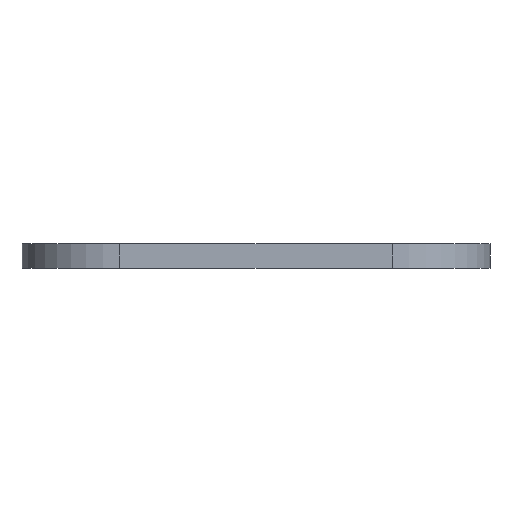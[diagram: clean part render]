
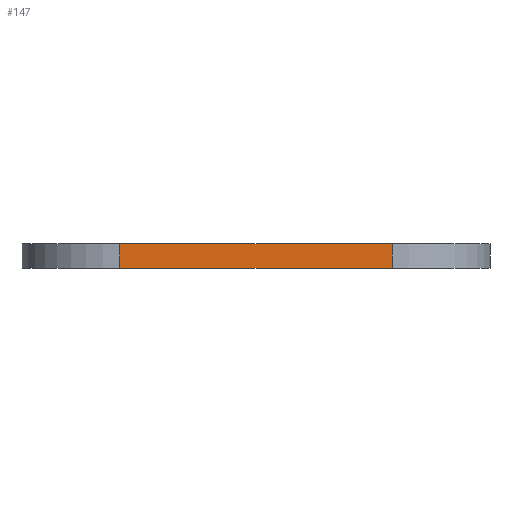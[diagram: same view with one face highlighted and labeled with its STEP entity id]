
A CAD part, front view. The second image highlights one B-rep face of the part: STEP entity #147.
In plain terms, the highlighted planar face has unit normal (0, -1, 0).
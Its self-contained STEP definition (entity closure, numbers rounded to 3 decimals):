
#21 = EDGE_CURVE('',#22,#24,#26,.T.);
#22 = VERTEX_POINT('',#23);
#23 = CARTESIAN_POINT('',(15.2,1.2,21.2));
#24 = VERTEX_POINT('',#25);
#25 = CARTESIAN_POINT('',(15.2,1.2,19.8));
#26 = SURFACE_CURVE('',#27,(#31,#43),.PCURVE_S1.);
#27 = LINE('',#28,#29);
#28 = CARTESIAN_POINT('',(15.2,1.2,21.2));
#29 = VECTOR('',#30,1.);
#30 = DIRECTION('',(0.,0.,-1.));
#31 = PCURVE('',#32,#37);
#32 = CYLINDRICAL_SURFACE('',#33,5.6);
#33 = AXIS2_PLACEMENT_3D('',#34,#35,#36);
#34 = CARTESIAN_POINT('',(15.2,6.8,21.2));
#35 = DIRECTION('',(0.,-0.,1.));
#36 = DIRECTION('',(0.,-1.,-0.));
#37 = DEFINITIONAL_REPRESENTATION('',(#38),#42);
#38 = LINE('',#39,#40);
#39 = CARTESIAN_POINT('',(-6.283,0.));
#40 = VECTOR('',#41,1.);
#41 = DIRECTION('',(-0.,-1.));
#42 = ( GEOMETRIC_REPRESENTATION_CONTEXT(2) 
PARAMETRIC_REPRESENTATION_CONTEXT() REPRESENTATION_CONTEXT('2D SPACE',''
  ) );
#43 = PCURVE('',#44,#49);
#44 = PLANE('',#45);
#45 = AXIS2_PLACEMENT_3D('',#46,#47,#48);
#46 = CARTESIAN_POINT('',(15.2,1.2,21.2));
#47 = DIRECTION('',(0.,-1.,0.));
#48 = DIRECTION('',(1.,0.,0.));
#49 = DEFINITIONAL_REPRESENTATION('',(#50),#54);
#50 = LINE('',#51,#52);
#51 = CARTESIAN_POINT('',(0.,0.));
#52 = VECTOR('',#53,1.);
#53 = DIRECTION('',(0.,-1.));
#54 = ( GEOMETRIC_REPRESENTATION_CONTEXT(2) 
PARAMETRIC_REPRESENTATION_CONTEXT() REPRESENTATION_CONTEXT('2D SPACE',''
  ) );
#73 = PLANE('',#74);
#74 = AXIS2_PLACEMENT_3D('',#75,#76,#77);
#75 = CARTESIAN_POINT('',(23.,42.,19.8));
#76 = DIRECTION('',(0.,0.,1.));
#77 = DIRECTION('',(1.,0.,-0.));
#132 = PLANE('',#133);
#133 = AXIS2_PLACEMENT_3D('',#134,#135,#136);
#134 = CARTESIAN_POINT('',(23.,42.,21.2));
#135 = DIRECTION('',(0.,0.,1.));
#136 = DIRECTION('',(1.,0.,-0.));
#147 = ADVANCED_FACE('',(#148),#44,.T.);
#148 = FACE_BOUND('',#149,.T.);
#149 = EDGE_LOOP('',(#150,#151,#174,#202));
#150 = ORIENTED_EDGE('',*,*,#21,.T.);
#151 = ORIENTED_EDGE('',*,*,#152,.T.);
#152 = EDGE_CURVE('',#24,#153,#155,.T.);
#153 = VERTEX_POINT('',#154);
#154 = CARTESIAN_POINT('',(30.8,1.2,19.8));
#155 = SURFACE_CURVE('',#156,(#160,#167),.PCURVE_S1.);
#156 = LINE('',#157,#158);
#157 = CARTESIAN_POINT('',(13.2,1.2,19.8));
#158 = VECTOR('',#159,1.);
#159 = DIRECTION('',(1.,0.,0.));
#160 = PCURVE('',#44,#161);
#161 = DEFINITIONAL_REPRESENTATION('',(#162),#166);
#162 = LINE('',#163,#164);
#163 = CARTESIAN_POINT('',(-2.,-1.4));
#164 = VECTOR('',#165,1.);
#165 = DIRECTION('',(1.,0.));
#166 = ( GEOMETRIC_REPRESENTATION_CONTEXT(2) 
PARAMETRIC_REPRESENTATION_CONTEXT() REPRESENTATION_CONTEXT('2D SPACE',''
  ) );
#167 = PCURVE('',#73,#168);
#168 = DEFINITIONAL_REPRESENTATION('',(#169),#173);
#169 = LINE('',#170,#171);
#170 = CARTESIAN_POINT('',(-9.8,-40.8));
#171 = VECTOR('',#172,1.);
#172 = DIRECTION('',(1.,0.));
#173 = ( GEOMETRIC_REPRESENTATION_CONTEXT(2) 
PARAMETRIC_REPRESENTATION_CONTEXT() REPRESENTATION_CONTEXT('2D SPACE',''
  ) );
#174 = ORIENTED_EDGE('',*,*,#175,.F.);
#175 = EDGE_CURVE('',#176,#153,#178,.T.);
#176 = VERTEX_POINT('',#177);
#177 = CARTESIAN_POINT('',(30.8,1.2,21.2));
#178 = SURFACE_CURVE('',#179,(#183,#190),.PCURVE_S1.);
#179 = LINE('',#180,#181);
#180 = CARTESIAN_POINT('',(30.8,1.2,21.2));
#181 = VECTOR('',#182,1.);
#182 = DIRECTION('',(0.,0.,-1.));
#183 = PCURVE('',#44,#184);
#184 = DEFINITIONAL_REPRESENTATION('',(#185),#189);
#185 = LINE('',#186,#187);
#186 = CARTESIAN_POINT('',(15.6,0.));
#187 = VECTOR('',#188,1.);
#188 = DIRECTION('',(0.,-1.));
#189 = ( GEOMETRIC_REPRESENTATION_CONTEXT(2) 
PARAMETRIC_REPRESENTATION_CONTEXT() REPRESENTATION_CONTEXT('2D SPACE',''
  ) );
#190 = PCURVE('',#191,#196);
#191 = CYLINDRICAL_SURFACE('',#192,5.6);
#192 = AXIS2_PLACEMENT_3D('',#193,#194,#195);
#193 = CARTESIAN_POINT('',(30.8,6.8,21.2));
#194 = DIRECTION('',(0.,-0.,1.));
#195 = DIRECTION('',(0.,-1.,-0.));
#196 = DEFINITIONAL_REPRESENTATION('',(#197),#201);
#197 = LINE('',#198,#199);
#198 = CARTESIAN_POINT('',(6.283,0.));
#199 = VECTOR('',#200,1.);
#200 = DIRECTION('',(0.,-1.));
#201 = ( GEOMETRIC_REPRESENTATION_CONTEXT(2) 
PARAMETRIC_REPRESENTATION_CONTEXT() REPRESENTATION_CONTEXT('2D SPACE',''
  ) );
#202 = ORIENTED_EDGE('',*,*,#203,.F.);
#203 = EDGE_CURVE('',#22,#176,#204,.T.);
#204 = SURFACE_CURVE('',#205,(#209,#216),.PCURVE_S1.);
#205 = LINE('',#206,#207);
#206 = CARTESIAN_POINT('',(13.2,1.2,21.2));
#207 = VECTOR('',#208,1.);
#208 = DIRECTION('',(1.,0.,0.));
#209 = PCURVE('',#44,#210);
#210 = DEFINITIONAL_REPRESENTATION('',(#211),#215);
#211 = LINE('',#212,#213);
#212 = CARTESIAN_POINT('',(-2.,0.));
#213 = VECTOR('',#214,1.);
#214 = DIRECTION('',(1.,0.));
#215 = ( GEOMETRIC_REPRESENTATION_CONTEXT(2) 
PARAMETRIC_REPRESENTATION_CONTEXT() REPRESENTATION_CONTEXT('2D SPACE',''
  ) );
#216 = PCURVE('',#132,#217);
#217 = DEFINITIONAL_REPRESENTATION('',(#218),#222);
#218 = LINE('',#219,#220);
#219 = CARTESIAN_POINT('',(-9.8,-40.8));
#220 = VECTOR('',#221,1.);
#221 = DIRECTION('',(1.,0.));
#222 = ( GEOMETRIC_REPRESENTATION_CONTEXT(2) 
PARAMETRIC_REPRESENTATION_CONTEXT() REPRESENTATION_CONTEXT('2D SPACE',''
  ) );
